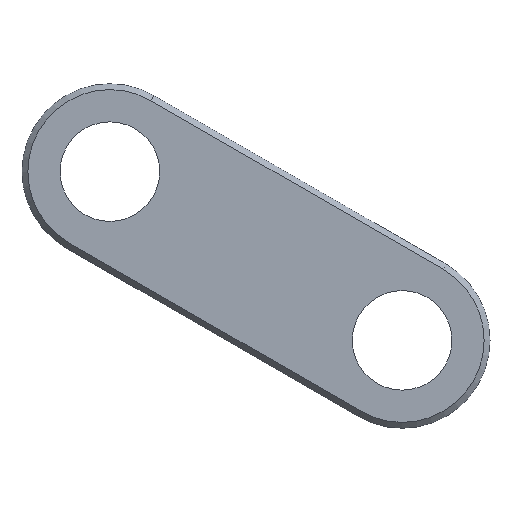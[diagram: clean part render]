
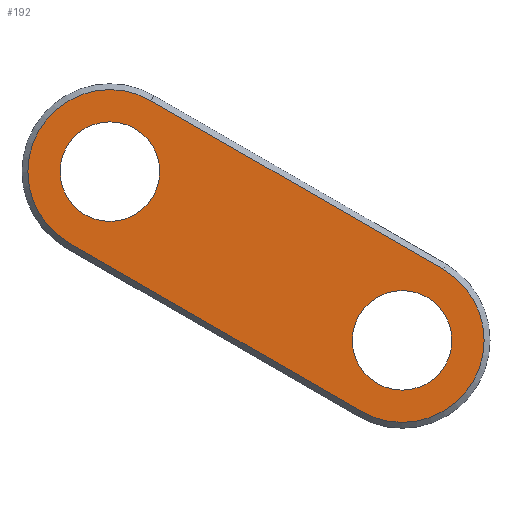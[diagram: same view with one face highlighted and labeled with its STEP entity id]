
A CAD part, left-side view. The second image highlights one B-rep face of the part: STEP entity #192.
In plain terms, the highlighted planar face has unit normal (-1, 0, 0).
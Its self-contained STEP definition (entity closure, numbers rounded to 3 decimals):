
#54=AXIS2_PLACEMENT_3D('Circle Axis2P3D',#52,#53,$) ;
#78=AXIS2_PLACEMENT_3D('Circle Axis2P3D',#76,#77,$) ;
#111=AXIS2_PLACEMENT_3D('Circle Axis2P3D',#109,#110,$) ;
#135=AXIS2_PLACEMENT_3D('Circle Axis2P3D',#133,#134,$) ;
#148=AXIS2_PLACEMENT_3D('Plane Axis2P3D',#145,#146,#147) ;
#152=AXIS2_PLACEMENT_3D('Circle Axis2P3D',#150,#151,$) ;
#168=AXIS2_PLACEMENT_3D('Circle Axis2P3D',#166,#167,$) ;
#49=CARTESIAN_POINT('Vertex',(35299.1,1651.045,2301.996)) ;
#52=CARTESIAN_POINT('Axis2P3D Location',(35299.1,1642.545,2301.996)) ;
#56=CARTESIAN_POINT('Vertex',(35299.1,1634.045,2301.996)) ;
#76=CARTESIAN_POINT('Axis2P3D Location',(35299.1,1642.545,2301.996)) ;
#106=CARTESIAN_POINT('Vertex',(35299.1,1700.913,2330.787)) ;
#109=CARTESIAN_POINT('Axis2P3D Location',(35299.1,1692.413,2330.787)) ;
#113=CARTESIAN_POINT('Vertex',(35299.1,1683.913,2330.787)) ;
#133=CARTESIAN_POINT('Axis2P3D Location',(35299.1,1692.413,2330.787)) ;
#145=CARTESIAN_POINT('Axis2P3D Location',(35299.1,1642.545,2301.996)) ;
#150=CARTESIAN_POINT('Axis2P3D Location',(35299.1,1692.413,2330.787)) ;
#154=CARTESIAN_POINT('Vertex',(35299.1,1699.413,2318.663)) ;
#156=CARTESIAN_POINT('Vertex',(35299.1,1685.413,2342.912)) ;
#159=CARTESIAN_POINT('Line Origine',(35299.1,1674.479,2304.267)) ;
#163=CARTESIAN_POINT('Vertex',(35299.1,1649.545,2289.872)) ;
#166=CARTESIAN_POINT('Axis2P3D Location',(35299.1,1642.545,2301.996)) ;
#170=CARTESIAN_POINT('Vertex',(35299.1,1635.545,2314.121)) ;
#173=CARTESIAN_POINT('Line Origine',(35299.1,1660.479,2328.516)) ;
#53=DIRECTION('Axis2P3D Direction',(1.,-0.,0.)) ;
#77=DIRECTION('Axis2P3D Direction',(1.,-0.,0.)) ;
#110=DIRECTION('Axis2P3D Direction',(1.,-0.,0.)) ;
#134=DIRECTION('Axis2P3D Direction',(1.,-0.,0.)) ;
#146=DIRECTION('Axis2P3D Direction',(1.,0.,0.)) ;
#147=DIRECTION('Axis2P3D XDirection',(0.,1.,0.)) ;
#151=DIRECTION('Axis2P3D Direction',(1.,0.,0.)) ;
#160=DIRECTION('Vector Direction',(0.,-0.866,-0.5)) ;
#167=DIRECTION('Axis2P3D Direction',(1.,0.,0.)) ;
#174=DIRECTION('Vector Direction',(0.,0.866,0.5)) ;
#161=VECTOR('Line Direction',#160,1.) ;
#175=VECTOR('Line Direction',#174,1.) ;
#179=ORIENTED_EDGE('',*,*,#158,.F.) ;
#180=ORIENTED_EDGE('',*,*,#165,.F.) ;
#181=ORIENTED_EDGE('',*,*,#172,.F.) ;
#182=ORIENTED_EDGE('',*,*,#177,.F.) ;
#185=ORIENTED_EDGE('',*,*,#80,.T.) ;
#186=ORIENTED_EDGE('',*,*,#58,.T.) ;
#189=ORIENTED_EDGE('',*,*,#137,.T.) ;
#190=ORIENTED_EDGE('',*,*,#115,.T.) ;
#187=FACE_BOUND('',#184,.T.) ;
#191=FACE_BOUND('',#188,.T.) ;
#192=ADVANCED_FACE('V.9626.7522.810.051-03 - \X2\041704320435043D043E\X0\',(#183,#187,#191),#149,.F.) ;
#55=CIRCLE('generated circle',#54,8.5) ;
#79=CIRCLE('generated circle',#78,8.5) ;
#112=CIRCLE('generated circle',#111,8.5) ;
#136=CIRCLE('generated circle',#135,8.5) ;
#153=CIRCLE('generated circle',#152,14.) ;
#169=CIRCLE('generated circle',#168,14.) ;
#58=EDGE_CURVE('',#57,#50,#55,.T.) ;
#80=EDGE_CURVE('',#50,#57,#79,.T.) ;
#115=EDGE_CURVE('',#114,#107,#112,.T.) ;
#137=EDGE_CURVE('',#107,#114,#136,.T.) ;
#158=EDGE_CURVE('',#155,#157,#153,.T.) ;
#165=EDGE_CURVE('',#164,#155,#162,.F.) ;
#172=EDGE_CURVE('',#171,#164,#169,.T.) ;
#177=EDGE_CURVE('',#157,#171,#176,.F.) ;
#178=EDGE_LOOP('',(#179,#180,#181,#182)) ;
#184=EDGE_LOOP('',(#185,#186)) ;
#188=EDGE_LOOP('',(#189,#190)) ;
#183=FACE_OUTER_BOUND('',#178,.T.) ;
#162=LINE('Line',#159,#161) ;
#176=LINE('Line',#173,#175) ;
#149=PLANE('',#148) ;
#50=VERTEX_POINT('',#49) ;
#57=VERTEX_POINT('',#56) ;
#107=VERTEX_POINT('',#106) ;
#114=VERTEX_POINT('',#113) ;
#155=VERTEX_POINT('',#154) ;
#157=VERTEX_POINT('',#156) ;
#164=VERTEX_POINT('',#163) ;
#171=VERTEX_POINT('',#170) ;
